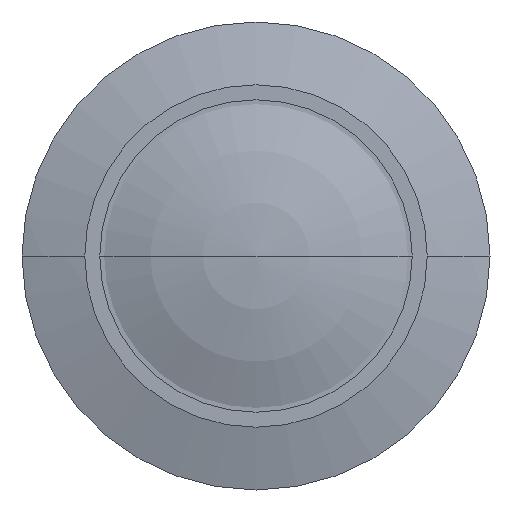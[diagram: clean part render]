
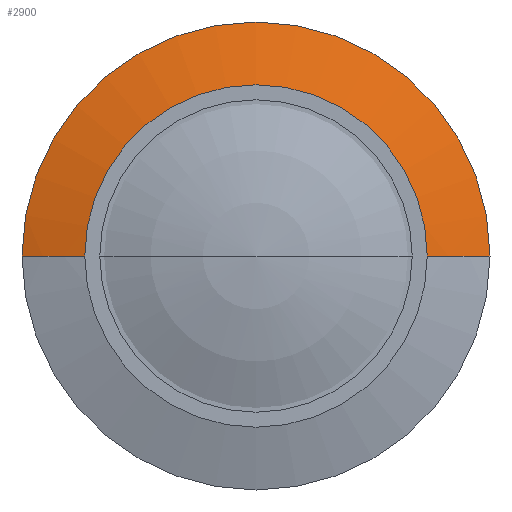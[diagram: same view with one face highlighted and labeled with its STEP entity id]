
A CAD part, left-side view. The second image highlights one B-rep face of the part: STEP entity #2900.
In plain terms, the highlighted spherical face has radius 35 mm.
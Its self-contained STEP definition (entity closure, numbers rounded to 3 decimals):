
#11=CARTESIAN_POINT('',(-17.58,0.,0.));
#12=DIRECTION('',(-1.,0.,0.));
#13=DIRECTION('',(0.,-1.,0.));
#14=AXIS2_PLACEMENT_3D('',#11,#12,#13);
#16=CARTESIAN_POINT('',(-16.745,0.,0.));
#17=DIRECTION('',(-1.,0.,0.));
#18=DIRECTION('',(0.,-1.,0.));
#19=AXIS2_PLACEMENT_3D('',#16,#17,#18);
#714=CARTESIAN_POINT('',(16.482,0.,0.));
#715=DIRECTION('',(0.,0.,1.));
#716=DIRECTION('',(-0.973,-0.23,0.));
#717=AXIS2_PLACEMENT_3D('',#714,#715,#716);
#719=CARTESIAN_POINT('',(16.482,0.,0.));
#720=DIRECTION('',(0.,0.,-1.));
#721=DIRECTION('',(-0.973,0.23,0.));
#722=AXIS2_PLACEMENT_3D('',#719,#720,#721);
#2743=CARTESIAN_POINT('',(-17.58,-8.05,0.));
#2744=CARTESIAN_POINT('',(-16.745,-11.,0.));
#2745=VERTEX_POINT('',#2743);
#2746=VERTEX_POINT('',#2744);
#2753=CARTESIAN_POINT('',(-17.58,8.05,0.));
#2754=CARTESIAN_POINT('',(-16.745,11.,0.));
#2755=VERTEX_POINT('',#2753);
#2756=VERTEX_POINT('',#2754);
#2886=CARTESIAN_POINT('',(16.482,0.,0.));
#2887=DIRECTION('',(-1.,0.,0.));
#2888=DIRECTION('',(0.,1.,0.));
#2889=AXIS2_PLACEMENT_3D('',#2886,#2887,#2888);
#2890=SPHERICAL_SURFACE('',#2889,35.);
#2892=ORIENTED_EDGE('',*,*,#2891,.F.);
#2893=ORIENTED_EDGE('',*,*,#2881,.T.);
#2895=ORIENTED_EDGE('',*,*,#2894,.T.);
#2897=ORIENTED_EDGE('',*,*,#2896,.F.);
#2898=EDGE_LOOP('',(#2892,#2893,#2895,#2897));
#2899=FACE_OUTER_BOUND('',#2898,.F.);
#2900=ADVANCED_FACE('',(#2899),#2890,.T.);
#15=CIRCLE('',#14,8.05);
#20=CIRCLE('',#19,11.);
#718=CIRCLE('',#717,35.);
#723=CIRCLE('',#722,35.);
#2881=EDGE_CURVE('',#2745,#2755,#15,.T.);
#2891=EDGE_CURVE('',#2745,#2746,#718,.T.);
#2894=EDGE_CURVE('',#2755,#2756,#723,.T.);
#2896=EDGE_CURVE('',#2746,#2756,#20,.T.);
